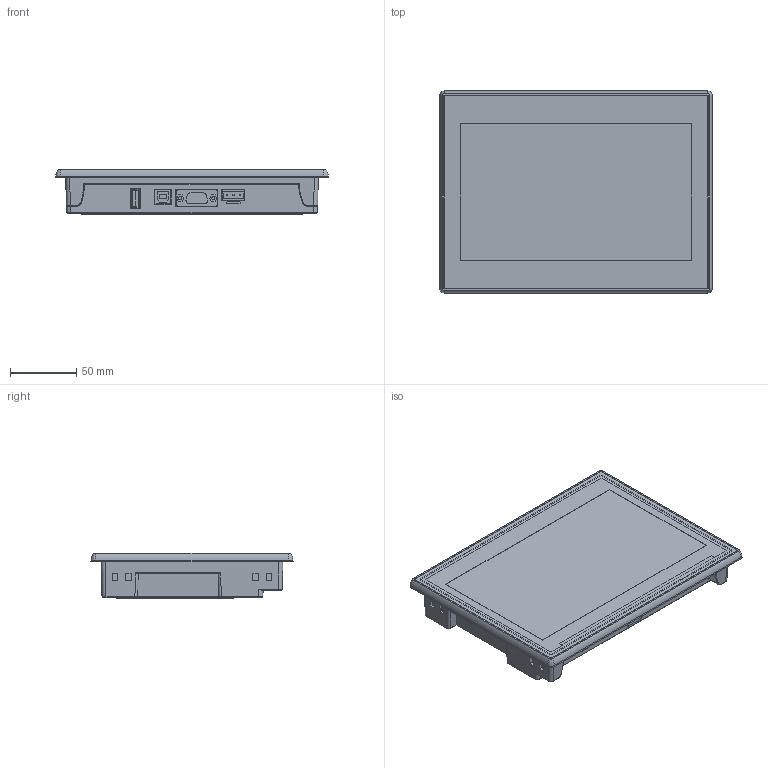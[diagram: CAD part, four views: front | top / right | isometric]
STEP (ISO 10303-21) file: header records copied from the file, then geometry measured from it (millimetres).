
FILE_DESCRIPTION (( 'STEP AP214' ), '1' );
FILE_NAME ('PM208-¦ê¤f.STEP', '2023-07-13T04:11:09', ( '' ), ( '' ), 'SwSTEP 2.0', 'SolidWorks 2020', '' );
FILE_SCHEMA (( 'AUTOMOTIVE_DESIGN' ));
Length unit declared in the file: millimetre
Products named in the file (1): PM208-串口
Bounding box: 206.13 x 152.63 x 34.5 mm (x, y, z)
Volume: 796949.2 mm3; surface area: 149167.5 mm2
Topology: 1 solids, 5 shells, 1069 faces, 2851 edges, 1848 vertices
Faces by surface type: plane 709, cylinder 211, cone 78, bspline 63, torus 8
Entity records: 39563 total; most frequent: CARTESIAN_POINT 13498, ORIENTED_EDGE 5702, DIRECTION 4936, EDGE_CURVE 2851, LINE 2054, VECTOR 2054, VERTEX_POINT 1848, AXIS2_PLACEMENT_3D 1441
